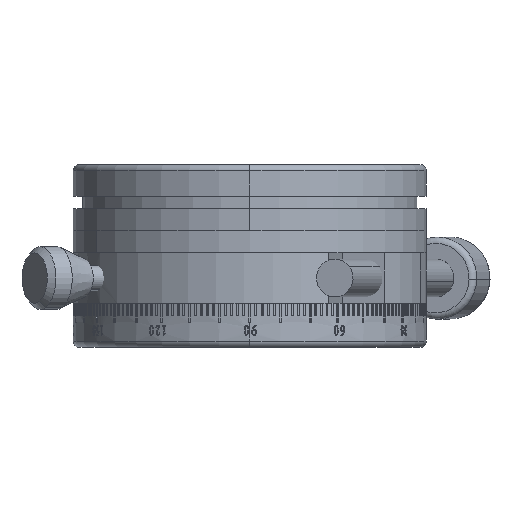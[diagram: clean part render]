
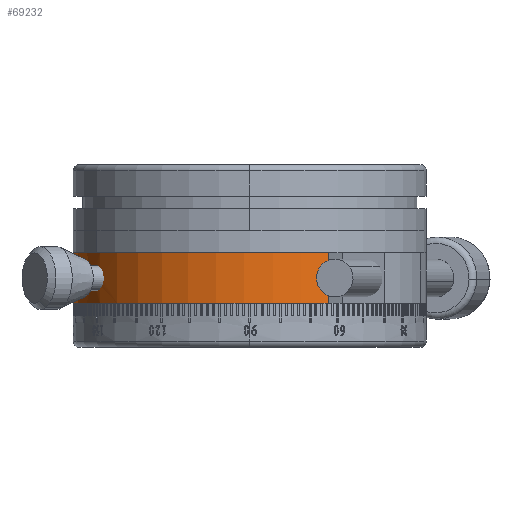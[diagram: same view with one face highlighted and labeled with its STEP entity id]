
A CAD part, left-side view. The second image highlights one B-rep face of the part: STEP entity #69232.
In plain terms, the highlighted cylindrical face has radius 28 mm (diameter 56 mm), a partial arc.
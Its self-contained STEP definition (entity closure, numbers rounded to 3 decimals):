
#481 = DIRECTION ( 'NONE',  ( 0.259, 0.966, 0. ) ) ;
#700 = CARTESIAN_POINT ( 'NONE',  ( -13.277, 24.652, -16.569 ) ) ;
#934 = CARTESIAN_POINT ( 'NONE',  ( -15.23, 23.496, -17.168 ) ) ;
#961 = ORIENTED_EDGE ( 'NONE', *, *, #30122, .T. ) ;
#3087 = ORIENTED_EDGE ( 'NONE', *, *, #17854, .T. ) ;
#3219 = DIRECTION ( 'NONE',  ( -0.259, -0.966, 0. ) ) ;
#3684 = CARTESIAN_POINT ( 'NONE',  ( -15.334, 23.428, -18.532 ) ) ;
#3781 = AXIS2_PLACEMENT_3D ( 'NONE', #48512, #37145, #3219 ) ;
#3925 = CARTESIAN_POINT ( 'NONE',  ( -13.363, 24.606, -19.483 ) ) ;
#5327 = B_SPLINE_CURVE_WITH_KNOTS ( 'NONE', 3,
 ( #17574, #51475, #23280, #62938, #28966, #68648, #34647, #700, #40312, #6412, #45993, #12080, #51730, #17804, #57438, #23527, #63183, #29198, #68890, #34886, #934, #40548, #6651, #46231 ),
 .UNSPECIFIED., .F., .F.,
 ( 4, 2, 2, 2, 2, 2, 2, 2, 2, 2, 2, 4 ),
 ( 0.005, 0.006, 0.006, 0.007, 0.007, 0.007, 0.008, 0.008, 0.009, 0.009, 0.01, 0.01 ),
 .UNSPECIFIED. ) ;
#6412 = CARTESIAN_POINT ( 'NONE',  ( -13.536, 24.511, -16.435 ) ) ;
#6651 = CARTESIAN_POINT ( 'NONE',  ( -15.405, 23.382, -17.782 ) ) ;
#7340 = EDGE_LOOP ( 'NONE', ( #28254, #3087 ) ) ;
#7858 = VERTEX_POINT ( 'NONE', #22760 ) ;
#8500 = VECTOR ( 'NONE', #66015, 1000. ) ;
#9375 = CARTESIAN_POINT ( 'NONE',  ( -15.222, 23.501, -18.827 ) ) ;
#9606 = CARTESIAN_POINT ( 'NONE',  ( -13.12, 24.736, -19.312 ) ) ;
#10527 = DIRECTION ( 'NONE',  ( 0., 0., 1. ) ) ;
#11012 = EDGE_CURVE ( 'NONE', #35222, #65130, #21720, .T. ) ;
#11102 = FACE_BOUND ( 'NONE', #7340, .T. ) ;
#12080 = CARTESIAN_POINT ( 'NONE',  ( -13.811, 24.357, -16.361 ) ) ;
#14824 = CARTESIAN_POINT ( 'NONE',  ( -15.405, 23.382, -18.109 ) ) ;
#14958 = VERTEX_POINT ( 'NONE', #41349 ) ;
#15064 = CARTESIAN_POINT ( 'NONE',  ( -15.062, 23.604, -19.091 ) ) ;
#15313 = CARTESIAN_POINT ( 'NONE',  ( -12.91, 24.846, -19.09 ) ) ;
#16664 = EDGE_CURVE ( 'NONE', #35766, #7858, #65709, .T. ) ;
#17574 = CARTESIAN_POINT ( 'NONE',  ( -12.547, 25.032, -18.001 ) ) ;
#17804 = CARTESIAN_POINT ( 'NONE',  ( -14.187, 24.141, -16.35 ) ) ;
#17854 = EDGE_CURVE ( 'NONE', #61581, #14958, #5327, .T. ) ;
#20777 = CARTESIAN_POINT ( 'NONE',  ( -14.713, 23.823, -19.442 ) ) ;
#21022 = CARTESIAN_POINT ( 'NONE',  ( -12.742, 24.933, -18.828 ) ) ;
#21720 = CIRCLE ( 'NONE', #29714, 28. ) ;
#22760 = CARTESIAN_POINT ( 'NONE',  ( 7.247, 27.046, -14. ) ) ;
#23280 = CARTESIAN_POINT ( 'NONE',  ( -12.585, 25.012, -17.568 ) ) ;
#23527 = CARTESIAN_POINT ( 'NONE',  ( -14.628, 23.875, -16.517 ) ) ;
#25627 = EDGE_CURVE ( 'NONE', #65130, #7858, #43339, .T. ) ;
#26214 = DIRECTION ( 'NONE',  ( 0., 0., -1. ) ) ;
#26503 = CARTESIAN_POINT ( 'NONE',  ( -14.187, 24.141, -19.65 ) ) ;
#26740 = CARTESIAN_POINT ( 'NONE',  ( -12.622, 24.994, -18.532 ) ) ;
#28254 = ORIENTED_EDGE ( 'NONE', *, *, #66335, .T. ) ;
#28966 = CARTESIAN_POINT ( 'NONE',  ( -12.842, 24.882, -16.987 ) ) ;
#29198 = CARTESIAN_POINT ( 'NONE',  ( -14.861, 23.731, -16.687 ) ) ;
#29714 = AXIS2_PLACEMENT_3D ( 'NONE', #60158, #26214, #65882 ) ;
#30122 = EDGE_CURVE ( 'NONE', #35222, #35766, #51911, .T. ) ;
#32163 = CARTESIAN_POINT ( 'NONE',  ( -13.813, 24.356, -19.639 ) ) ;
#32403 = CARTESIAN_POINT ( 'NONE',  ( -12.556, 25.027, -18.218 ) ) ;
#33650 = CARTESIAN_POINT ( 'NONE',  ( -12.547, 25.032, -18.001 ) ) ;
#33749 = AXIS2_PLACEMENT_3D ( 'NONE', #68421, #34428, #481 ) ;
#34316 = EDGE_LOOP ( 'NONE', ( #66497, #41866, #55023, #961 ) ) ;
#34428 = DIRECTION ( 'NONE',  ( 0., 0., -1. ) ) ;
#34647 = CARTESIAN_POINT ( 'NONE',  ( -13.119, 24.737, -16.689 ) ) ;
#34886 = CARTESIAN_POINT ( 'NONE',  ( -15.126, 23.563, -16.984 ) ) ;
#35222 = VERTEX_POINT ( 'NONE', #42847 ) ;
#35766 = VERTEX_POINT ( 'NONE', #55131 ) ;
#37145 = DIRECTION ( 'NONE',  ( 0., 0., 1. ) ) ;
#37603 = CARTESIAN_POINT ( 'NONE',  ( -15.361, 23.411, -18.427 ) ) ;
#37850 = CARTESIAN_POINT ( 'NONE',  ( -13.538, 24.51, -19.566 ) ) ;
#38086 = CARTESIAN_POINT ( 'NONE',  ( -12.547, 25.032, -18.001 ) ) ;
#39448 = FACE_OUTER_BOUND ( 'NONE', #34316, .T. ) ;
#40312 = CARTESIAN_POINT ( 'NONE',  ( -13.36, 24.607, -16.518 ) ) ;
#40548 = CARTESIAN_POINT ( 'NONE',  ( -15.368, 23.406, -17.565 ) ) ;
#41349 = CARTESIAN_POINT ( 'NONE',  ( -15.405, 23.382, -18. ) ) ;
#41550 = VECTOR ( 'NONE', #10527, 1000. ) ;
#41866 = ORIENTED_EDGE ( 'NONE', *, *, #25627, .F. ) ;
#42847 = CARTESIAN_POINT ( 'NONE',  ( -25.09, -12.43, -22. ) ) ;
#43254 = CARTESIAN_POINT ( 'NONE',  ( -15.265, 23.473, -18.732 ) ) ;
#43339 = LINE ( 'NONE', #55868, #41550 ) ;
#43501 = CARTESIAN_POINT ( 'NONE',  ( -13.278, 24.652, -19.432 ) ) ;
#45993 = CARTESIAN_POINT ( 'NONE',  ( -13.627, 24.46, -16.403 ) ) ;
#46231 = CARTESIAN_POINT ( 'NONE',  ( -15.405, 23.382, -18. ) ) ;
#48512 = CARTESIAN_POINT ( 'NONE',  ( 0., 0., -22. ) ) ;
#48983 = CARTESIAN_POINT ( 'NONE',  ( -15.121, 23.566, -19.006 ) ) ;
#49119 = CARTESIAN_POINT ( 'NONE',  ( 7.247, 27.046, -22. ) ) ;
#49228 = CARTESIAN_POINT ( 'NONE',  ( -13.046, 24.775, -19.244 ) ) ;
#51475 = CARTESIAN_POINT ( 'NONE',  ( -12.547, 25.032, -17.785 ) ) ;
#51730 = CARTESIAN_POINT ( 'NONE',  ( -13.904, 24.304, -16.35 ) ) ;
#51911 = LINE ( 'NONE', #60295, #8500 ) ;
#54442 = CARTESIAN_POINT ( 'NONE',  ( -15.405, 23.382, -18. ) ) ;
#54681 = CARTESIAN_POINT ( 'NONE',  ( -14.87, 23.726, -19.319 ) ) ;
#54933 = CARTESIAN_POINT ( 'NONE',  ( -12.849, 24.878, -19.007 ) ) ;
#55023 = ORIENTED_EDGE ( 'NONE', *, *, #11012, .F. ) ;
#55131 = CARTESIAN_POINT ( 'NONE',  ( -25.09, -12.43, -14. ) ) ;
#55868 = CARTESIAN_POINT ( 'NONE',  ( 7.247, 27.046, -22. ) ) ;
#57438 = CARTESIAN_POINT ( 'NONE',  ( -14.371, 24.031, -16.392 ) ) ;
#60158 = CARTESIAN_POINT ( 'NONE',  ( 0., 0., -22. ) ) ;
#60295 = CARTESIAN_POINT ( 'NONE',  ( -25.09, -12.43, -22. ) ) ;
#60431 = CARTESIAN_POINT ( 'NONE',  ( -14.374, 24.03, -19.607 ) ) ;
#60673 = CARTESIAN_POINT ( 'NONE',  ( -12.696, 24.956, -18.732 ) ) ;
#61581 = VERTEX_POINT ( 'NONE', #33650 ) ;
#62938 = CARTESIAN_POINT ( 'NONE',  ( -12.732, 24.938, -17.171 ) ) ;
#63183 = CARTESIAN_POINT ( 'NONE',  ( -14.709, 23.826, -16.567 ) ) ;
#65130 = VERTEX_POINT ( 'NONE', #49119 ) ;
#65709 = CIRCLE ( 'NONE', #33749, 28. ) ;
#65882 = DIRECTION ( 'NONE',  ( 0.259, 0.966, 0. ) ) ;
#66015 = DIRECTION ( 'NONE',  ( 0., 0., 1. ) ) ;
#66161 = CARTESIAN_POINT ( 'NONE',  ( -13.908, 24.302, -19.65 ) ) ;
#66335 = EDGE_CURVE ( 'NONE', #14958, #61581, #71977, .T. ) ;
#66401 = CARTESIAN_POINT ( 'NONE',  ( -12.594, 25.008, -18.429 ) ) ;
#66497 = ORIENTED_EDGE ( 'NONE', *, *, #16664, .T. ) ;
#67898 = CYLINDRICAL_SURFACE ( 'NONE', #3781, 28. ) ;
#68421 = CARTESIAN_POINT ( 'NONE',  ( 0., 0., -14. ) ) ;
#68648 = CARTESIAN_POINT ( 'NONE',  ( -13.044, 24.776, -16.758 ) ) ;
#68890 = CARTESIAN_POINT ( 'NONE',  ( -14.933, 23.686, -16.756 ) ) ;
#69232 = ADVANCED_FACE ( 'NONE', ( #11102, #39448 ), #67898, .T. ) ;
#71606 = CARTESIAN_POINT ( 'NONE',  ( -15.396, 23.387, -18.216 ) ) ;
#71848 = CARTESIAN_POINT ( 'NONE',  ( -13.628, 24.46, -19.597 ) ) ;
#71977 = B_SPLINE_CURVE_WITH_KNOTS ( 'NONE', 3,
 ( #54442, #14824, #71606, #37603, #3684, #43254, #9375, #48983, #15064, #54681, #20777, #60431, #26503, #66161, #32163, #71848, #37850, #3925, #43501, #9606, #49228, #15313, #54933, #21022, #60673, #26740, #66401, #32403, #72095, #38086 ),
 .UNSPECIFIED., .F., .F.,
 ( 4, 2, 2, 2, 2, 2, 2, 2, 2, 2, 2, 2, 2, 2, 4 ),
 ( 0., 0., 0.001, 0.001, 0.001, 0.002, 0.003, 0.003, 0.003, 0.004, 0.004, 0.004, 0.005, 0.005, 0.005 ),
 .UNSPECIFIED. ) ;
#72095 = CARTESIAN_POINT ( 'NONE',  ( -12.547, 25.032, -18.108 ) ) ;
